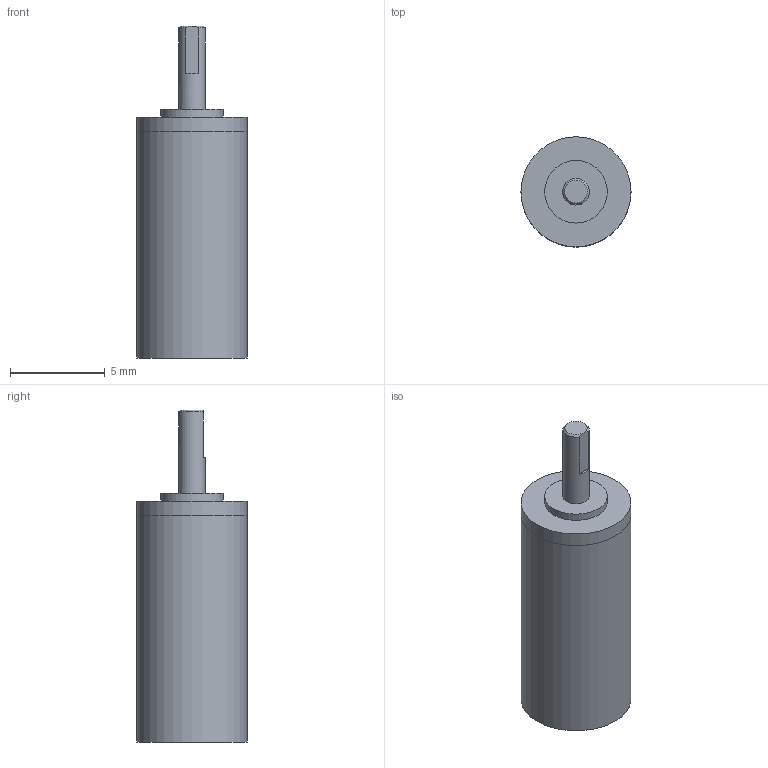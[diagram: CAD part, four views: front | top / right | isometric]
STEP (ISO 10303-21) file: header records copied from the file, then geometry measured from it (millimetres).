
FILE_DESCRIPTION(/* description */ (''),/* implementation_level */ '2;1');
FILE_NAME(/* name */ '06-A_4.stp',/* time_stamp */ '2016-09-30T07:55:31+02:00',/* author */ ('DR. FRITZ FAULHABER GmbH & Co. KG'),/* organization */ ('DR. FRITZ FAULHABER GmbH & Co. KG'),/* preprocessor_version */ 'ST-DEVELOPER v16',/* originating_system */ 'SIEMENS PLM Software NX 10.0',/* authorisation */ '');
FILE_SCHEMA (('AUTOMOTIVE_DESIGN { 1 0 10303 214 3 1 1 1 }'));
Length unit declared in the file: millimetre
Products named in the file (1): H00001146_A
Bounding box: 5.8 x 5.8 x 17.5 mm (x, y, z)
Volume: 288.4 mm3; surface area: 357 mm2
Topology: 1 solids, 1 shells, 18 faces, 30 edges, 20 vertices
Faces by surface type: plane 10, cylinder 7, cone 1
Full cylindrical faces by diameter (mm): 1.4 x1, 1.6 x1, 3.3 x1, 5 x1, 5.799 x1, 5.8 x2
Entity records: 412 total; most frequent: DIRECTION 73, CARTESIAN_POINT 73, ORIENTED_EDGE 42, AXIS2_PLACEMENT_3D 35, EDGE_LOOP 31, FACE_BOUND 26, EDGE_CURVE 21, ADVANCED_FACE 18
